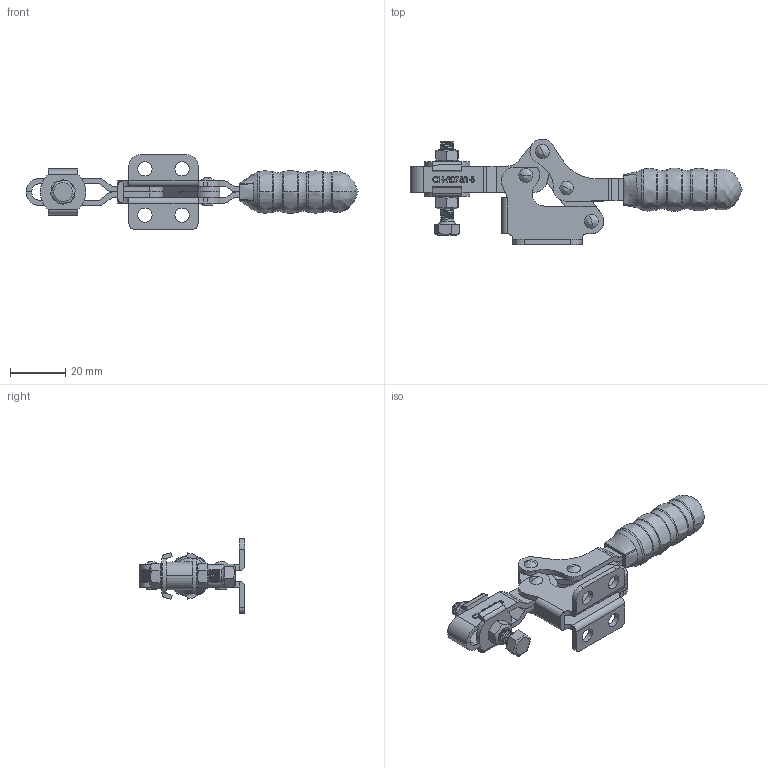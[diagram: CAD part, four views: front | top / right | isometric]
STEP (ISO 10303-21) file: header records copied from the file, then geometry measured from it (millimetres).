
FILE_DESCRIPTION(/* description */ ('STEP AP203'),/* implementation_level */ '2;1');
FILE_NAME(/* name */ 'E:\STRONA\Horizontal toggle clamp\CH-20752-B\CH-20752-B_ZAMKNIETY.stp',/* time_stamp */ '2019-01-15T16:17:08+01:00',/* author */ ('Admin'),/* organization */ ('·L?¤¤?'),/* preprocessor_version */ 'ST-DEVELOPER v17.2',/* originating_system */ 'Autodesk Inventor 2019',/* authorisation */ '');
FILE_SCHEMA (('AUTOMOTIVE_DESIGN { 1 0 10303 214 3 1 1 }'));
Products named in the file (10): CH-20752-B_ZAMKNIETY; 20752-B-03___; FW140___; 20752-B-05___; _____; 053008___; 20752-B___; M5___; 20752-B-04___; 20752-B-02___
Assembly tree (15 placements, depth 2):
  CH-20752-B_ZAMKNIETY
    20752-B-03___
    M5___  x2
    20752-B-05___  x4
    FW140___  x2
    20752-B-04___  x2
    _____
    053008___
    20752-B___
    20752-B-02___
Bounding box: 120.16 x 38.21 x 27 mm (x, y, z)
Volume: 16177.1 mm3; surface area: 17610.2 mm2
Topology: 17 solids, 17 shells, 679 faces, 1906 edges, 1277 vertices
Faces by surface type: plane 297, bspline 209, cylinder 142, torus 19, cone 12
Full cylindrical faces by diameter (mm): 1.033 x1, 1.199 x1, 2.4 x4, 3 x20, 4.2 x8, 5 x34, 5.2 x4, 6.8 x2
Entity records: 45662 total; most frequent: CARTESIAN_POINT 30743, ORIENTED_EDGE 3418, DIRECTION 2362, EDGE_CURVE 1709, VERTEX_POINT 1151, LINE 930, VECTOR 930, AXIS2_PLACEMENT_3D 716
